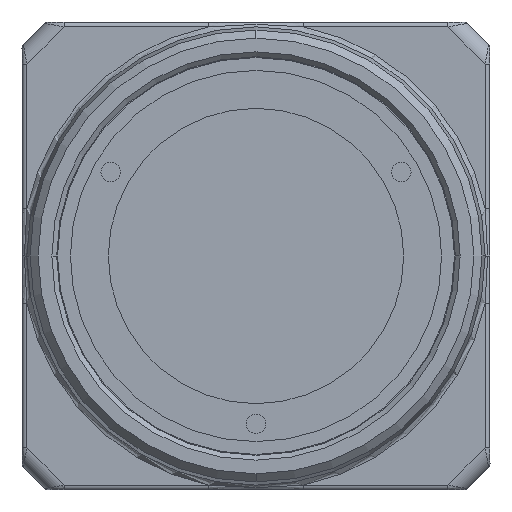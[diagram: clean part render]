
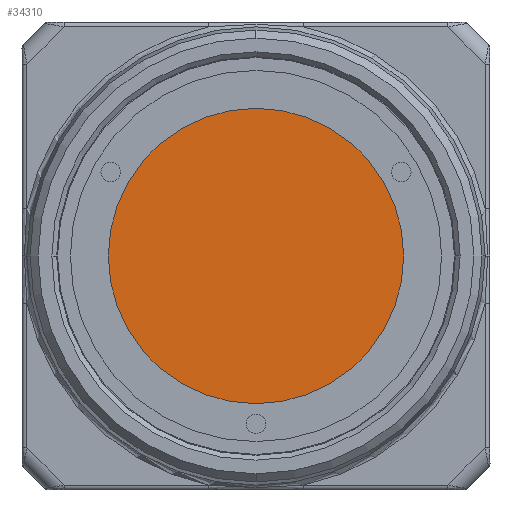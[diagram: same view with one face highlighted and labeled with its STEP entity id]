
A CAD part, left-side view. The second image highlights one B-rep face of the part: STEP entity #34310.
In plain terms, the highlighted planar face has unit normal (-1, 0, 0).
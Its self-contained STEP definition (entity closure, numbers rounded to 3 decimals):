
#3014=CARTESIAN_POINT('',(0.1,0.,0.));
#3015=DIRECTION('',(1.,0.,0.));
#3016=DIRECTION('',(0.,1.,0.));
#3017=AXIS2_PLACEMENT_3D('',#3014,#3015,#3016);
#3019=CARTESIAN_POINT('',(0.1,0.,0.));
#3020=DIRECTION('',(1.,0.,0.));
#3021=DIRECTION('',(0.,-1.,0.));
#3022=AXIS2_PLACEMENT_3D('',#3019,#3020,#3021);
#29138=CARTESIAN_POINT('',(0.1,9.15,0.));
#29139=CARTESIAN_POINT('',(0.1,-9.15,0.));
#29140=VERTEX_POINT('',#29138);
#29141=VERTEX_POINT('',#29139);
#34300=CARTESIAN_POINT('',(0.1,0.,0.));
#34301=DIRECTION('',(1.,0.,0.));
#34302=DIRECTION('',(0.,-1.,0.));
#34303=AXIS2_PLACEMENT_3D('',#34300,#34301,#34302);
#34304=PLANE('',#34303);
#34305=ORIENTED_EDGE('',*,*,#34290,.T.);
#34307=ORIENTED_EDGE('',*,*,#34306,.T.);
#34308=EDGE_LOOP('',(#34305,#34307));
#34309=FACE_OUTER_BOUND('',#34308,.F.);
#34310=ADVANCED_FACE('',(#34309),#34304,.F.);
#3018=CIRCLE('',#3017,9.15);
#3023=CIRCLE('',#3022,9.15);
#34290=EDGE_CURVE('',#29140,#29141,#3018,.T.);
#34306=EDGE_CURVE('',#29141,#29140,#3023,.T.);
